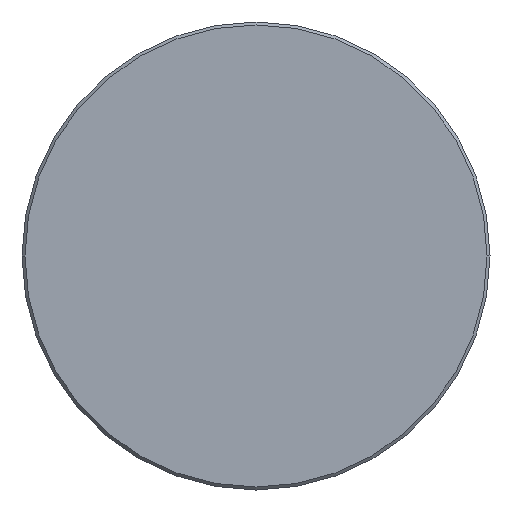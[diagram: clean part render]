
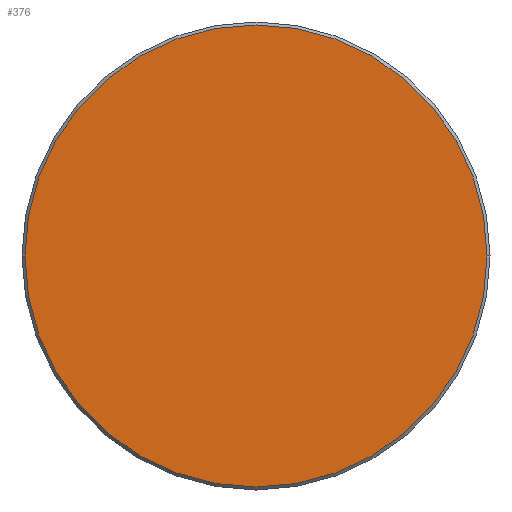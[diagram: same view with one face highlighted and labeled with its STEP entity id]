
A CAD part, left-side view. The second image highlights one B-rep face of the part: STEP entity #376.
In plain terms, the highlighted planar face has unit normal (-1, 0, 0).
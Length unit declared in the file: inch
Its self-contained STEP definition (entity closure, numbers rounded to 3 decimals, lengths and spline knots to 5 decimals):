
#10 = CARTESIAN_POINT ( 'NONE',  ( 0., -0.3085, 0. ) ) ;
#53 = EDGE_CURVE ( 'NONE', #214, #93, #267, .T. ) ;
#69 = EDGE_LOOP ( 'NONE', ( #140, #248 ) ) ;
#93 = VERTEX_POINT ( 'NONE', #295 ) ;
#116 = FACE_OUTER_BOUND ( 'NONE', #69, .T. ) ;
#128 = AXIS2_PLACEMENT_3D ( 'NONE', #177, #313, #371 ) ;
#134 = CARTESIAN_POINT ( 'NONE',  ( 0., 0., 0. ) ) ;
#136 = DIRECTION ( 'NONE',  ( -1., 0., 0. ) ) ;
#140 = ORIENTED_EDGE ( 'NONE', *, *, #142, .T. ) ;
#142 = EDGE_CURVE ( 'NONE', #93, #214, #183, .T. ) ;
#177 = CARTESIAN_POINT ( 'NONE',  ( 0., 0., 0. ) ) ;
#183 = CIRCLE ( 'NONE', #194, 0.3085 ) ;
#191 = DIRECTION ( 'NONE',  ( 0., -1., 0. ) ) ;
#194 = AXIS2_PLACEMENT_3D ( 'NONE', #134, #136, #359 ) ;
#214 = VERTEX_POINT ( 'NONE', #10 ) ;
#248 = ORIENTED_EDGE ( 'NONE', *, *, #53, .T. ) ;
#252 = AXIS2_PLACEMENT_3D ( 'NONE', #351, #354, #191 ) ;
#261 = PLANE ( 'NONE',  #128 ) ;
#267 = CIRCLE ( 'NONE', #252, 0.3085 ) ;
#295 = CARTESIAN_POINT ( 'NONE',  ( 0., 0.3085, 0. ) ) ;
#313 = DIRECTION ( 'NONE',  ( -1., 0., 0. ) ) ;
#351 = CARTESIAN_POINT ( 'NONE',  ( 0., 0., 0. ) ) ;
#354 = DIRECTION ( 'NONE',  ( -1., 0., 0. ) ) ;
#359 = DIRECTION ( 'NONE',  ( 0., -1., 0. ) ) ;
#371 = DIRECTION ( 'NONE',  ( 0., -1., 0. ) ) ;
#376 = ADVANCED_FACE ( 'NONE', ( #116 ), #261, .T. ) ;
